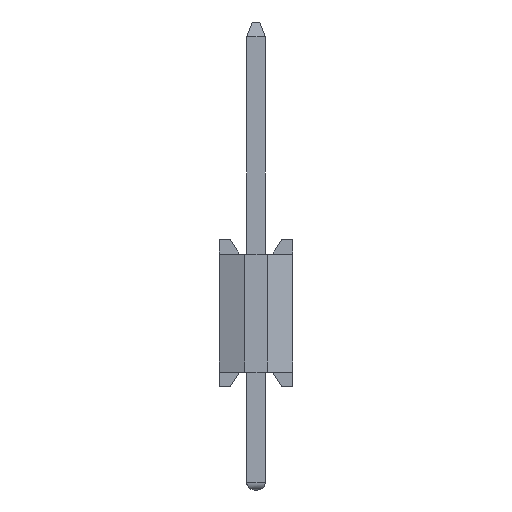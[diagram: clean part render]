
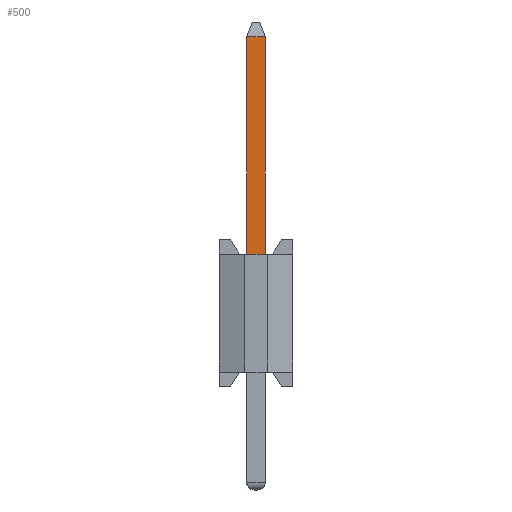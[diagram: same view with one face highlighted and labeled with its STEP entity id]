
A CAD part, left-side view. The second image highlights one B-rep face of the part: STEP entity #500.
In plain terms, the highlighted planar face has unit normal (-1, 0, 0).
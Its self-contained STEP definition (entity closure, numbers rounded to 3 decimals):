
#500=ADVANCED_FACE('',(#1572),#1008,.T.);
#1008=PLANE('',#11079);
#1572=FACE_OUTER_BOUND('',#2164,.T.);
#2164=EDGE_LOOP('',(#4430,#4431,#4432,#4433));
#4430=ORIENTED_EDGE('',*,*,#7464,.F.);
#4431=ORIENTED_EDGE('',*,*,#7460,.T.);
#4432=ORIENTED_EDGE('',*,*,#7465,.T.);
#4433=ORIENTED_EDGE('',*,*,#7466,.F.);
#6166=VERTEX_POINT('',#16226);
#6167=VERTEX_POINT('',#16227);
#6170=VERTEX_POINT('',#16235);
#6171=VERTEX_POINT('',#16237);
#7460=EDGE_CURVE('',#6166,#6167,#8894,.T.);
#7464=EDGE_CURVE('',#6166,#6170,#8898,.T.);
#7465=EDGE_CURVE('',#6167,#6171,#8899,.T.);
#7466=EDGE_CURVE('',#6170,#6171,#8900,.T.);
#8894=LINE('',#16225,#10328);
#8898=LINE('',#16234,#10332);
#8899=LINE('',#16236,#10333);
#8900=LINE('',#16238,#10334);
#10328=VECTOR('',#13147,1.);
#10332=VECTOR('',#13153,1.);
#10333=VECTOR('',#13154,1.);
#10334=VECTOR('',#13155,1.);
#11079=AXIS2_PLACEMENT_3D('',#16239,#13156,#13157);
#13147=DIRECTION('',(0.,-1.,0.));
#13153=DIRECTION('',(0.,0.,1.));
#13154=DIRECTION('',(0.,0.,1.));
#13155=DIRECTION('',(0.,-1.,0.));
#13156=DIRECTION('',(-1.,0.,0.));
#13157=DIRECTION('',(0.,0.,-1.));
#16225=CARTESIAN_POINT('',(0.75,1.25,3.2));
#16226=CARTESIAN_POINT('',(0.75,1.25,3.2));
#16227=CARTESIAN_POINT('',(0.75,0.75,3.2));
#16234=CARTESIAN_POINT('',(0.75,1.25,9.5));
#16235=CARTESIAN_POINT('',(0.75,1.25,9.1));
#16236=CARTESIAN_POINT('',(0.75,0.75,9.5));
#16237=CARTESIAN_POINT('',(0.75,0.75,9.1));
#16238=CARTESIAN_POINT('',(0.75,1.25,9.1));
#16239=CARTESIAN_POINT('',(0.75,1.25,3.2));
